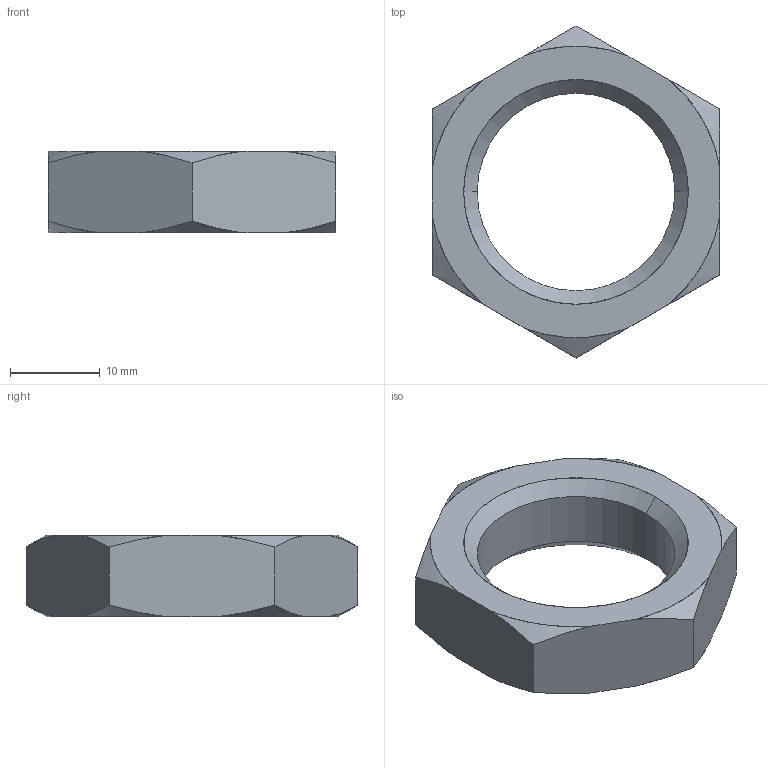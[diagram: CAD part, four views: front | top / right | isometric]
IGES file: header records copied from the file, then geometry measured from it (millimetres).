
Start section: SolidWorks IGES file using analytic representation for surfaces
Global section: file name: C:\Users\liam_\OneDrive\Desktop\Work\Mat Davis Pending 20181125\automotion\P SERIES\P0307.ZP_v2\P0307.ZP_v2_20181215_IGES\P0307.220-150-ZP.igs; native system: SolidWorks 2017; preprocessor: SolidWorks 2017; author: liam_; date: 181215.155050; units: millimetre
Bounding box: 32 x 36.95 x 9.1 mm (x, y, z)
Surface area: 2470 mm2 (no closed solid volume)
Topology: 0 solids, 0 shells, 26 faces, 304 edges, 304 vertices
Faces by surface type: revolution 18, bspline 8
